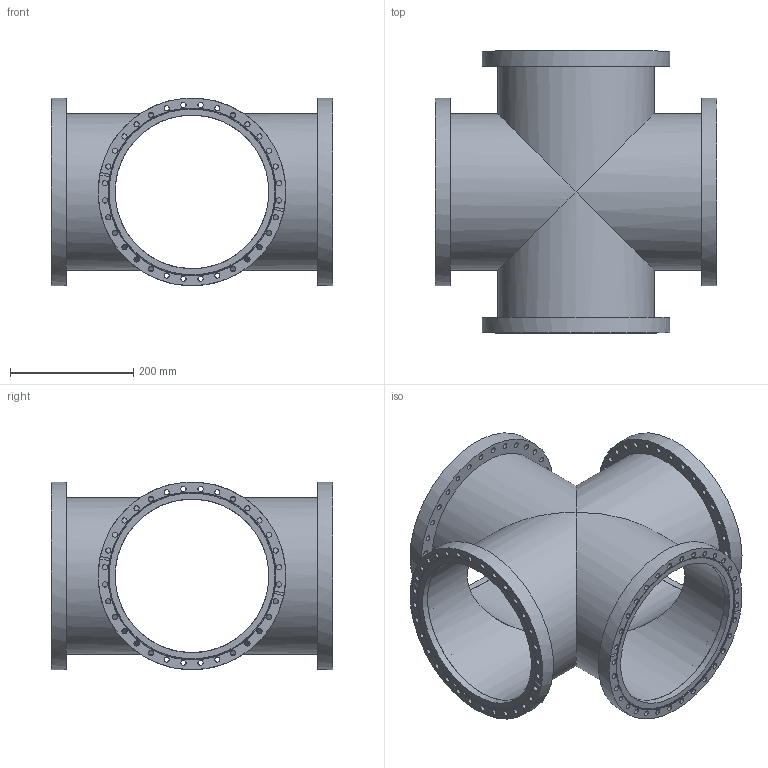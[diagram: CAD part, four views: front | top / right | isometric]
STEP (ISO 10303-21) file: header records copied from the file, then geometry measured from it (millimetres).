
FILE_DESCRIPTION( ( 'Unknown' ), '1' );
FILE_NAME( 'X:/Daten ( aktueller Bestand )/Projekte und Zeichnungen/Solid Edge/STP-Dateien/CF-Teile/7117R.stp', 'Unknown', ( 'Unknown' ), ( 'Unknown' ), 'PSStep 14.0', 'Unknown', ' ' );
FILE_SCHEMA( ( 'AUTOMOTIVE_DESIGN { 1 0 10303 214 1 1 1 1 }' ) );
Length unit declared in the file: millimetre
Products named in the file (3): Assem1; 7117-1; 7517F
Assembly tree (5 placements, depth 2):
  Assem1
    7117-1
    7517F  x4
Bounding box: 458 x 458 x 304.58 mm (x, y, z)
Volume: 2947806.6 mm3; surface area: 1306866.5 mm2
Topology: 5 solids, 5 shells, 192 faces, 652 edges, 472 vertices
Faces by surface type: cylinder 160, plane 24, cone 8
Full cylindrical faces by diameter (mm): 8.4 x128, 250 x8, 254 x4, 254.5 x4, 273 x4, 305 x4
Entity records: 2272 total; most frequent: CARTESIAN_POINT 323, DIRECTION 314, ORIENTED_EDGE 200, EDGE_LOOP 174, AXIS2_PLACEMENT_3D 155, FACE_OUTER_BOUND 101, EDGE_CURVE 100, VERTEX_POINT 92
